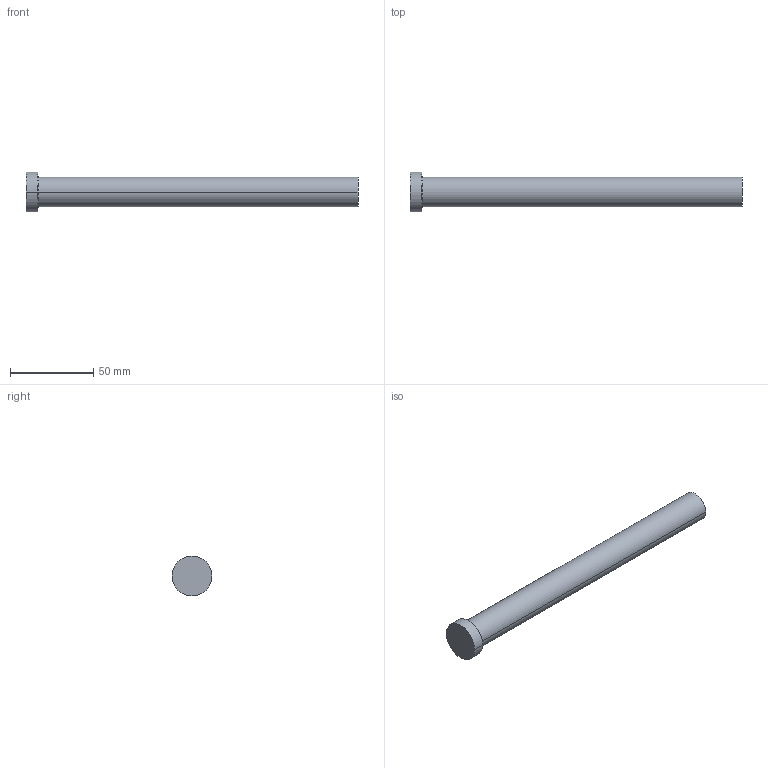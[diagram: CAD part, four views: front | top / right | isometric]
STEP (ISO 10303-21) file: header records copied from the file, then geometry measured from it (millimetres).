
FILE_DESCRIPTION (( 'STEP AP214' ), '1' );
FILE_NAME ('A-18x200.STEP', '2020-05-29T16:21:55', ( 'August' ), ( '' ), 'SwSTEP 2.0', 'SolidWorks 2018', '' );
FILE_SCHEMA (( 'AUTOMOTIVE_DESIGN' ));
Length unit declared in the file: millimetre
Products named in the file (1): A-18x200
Bounding box: 200 x 24 x 24 mm (x, y, z)
Volume: 52287.2 mm3; surface area: 12327.3 mm2
Topology: 1 solids, 1 shells, 9 faces, 16 edges, 10 vertices
Faces by surface type: cylinder 4, plane 3, torus 2
Entity records: 260 total; most frequent: DIRECTION 48, CARTESIAN_POINT 36, ORIENTED_EDGE 32, AXIS2_PLACEMENT_3D 22, EDGE_CURVE 16, CIRCLE 12, EDGE_LOOP 10, VERTEX_POINT 10
